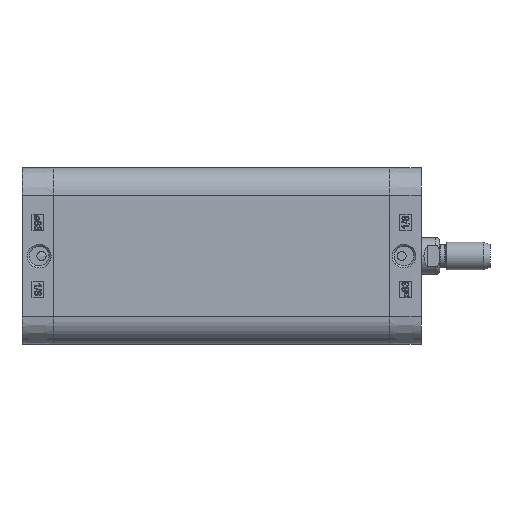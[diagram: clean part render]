
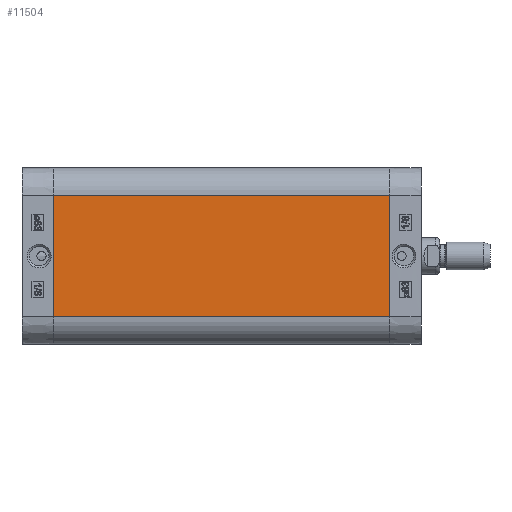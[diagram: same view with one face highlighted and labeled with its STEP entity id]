
A CAD part, left-side view. The second image highlights one B-rep face of the part: STEP entity #11504.
In plain terms, the highlighted planar face has unit normal (-1, 0, 0).
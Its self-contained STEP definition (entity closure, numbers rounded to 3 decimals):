
#5848=CARTESIAN_POINT('',(-38.5,-146.5,26.5));
#5849=VERTEX_POINT('',#5848);
#5856=CARTESIAN_POINT('',(-38.5,-146.5,-26.5));
#5857=VERTEX_POINT('',#5856);
#5858=CARTESIAN_POINT('',(-38.5,-146.5,-26.5));
#5859=DIRECTION('',(0.0,0.0,1.0));
#5860=VECTOR('',#5859,53.0);
#5861=LINE('',#5858,#5860);
#5862=EDGE_CURVE('',#5857,#5849,#5861,.T.);
#11462=CARTESIAN_POINT('',(-38.5,0.0,-26.5));
#11463=VERTEX_POINT('',#11462);
#11464=CARTESIAN_POINT('',(-38.5,0.0,-26.5));
#11465=DIRECTION('',(0.0,-1.0,0.0));
#11466=VECTOR('',#11465,146.5);
#11467=LINE('',#11464,#11466);
#11468=EDGE_CURVE('',#11463,#5857,#11467,.T.);
#11481=CARTESIAN_POINT('',(-38.5,0.0,-26.5));
#11482=DIRECTION('',(-1.0,0.0,0.0));
#11483=DIRECTION('',(0.0,0.0,1.0));
#11484=AXIS2_PLACEMENT_3D('',#11481,#11482,#11483);
#11485=PLANE('',#11484);
#11486=ORIENTED_EDGE('',*,*,#5862,.T.);
#11487=CARTESIAN_POINT('',(-38.5,0.0,26.5));
#11488=VERTEX_POINT('',#11487);
#11489=CARTESIAN_POINT('',(-38.5,0.0,26.5));
#11490=DIRECTION('',(0.0,-1.0,0.0));
#11491=VECTOR('',#11490,146.5);
#11492=LINE('',#11489,#11491);
#11493=EDGE_CURVE('',#11488,#5849,#11492,.T.);
#11494=ORIENTED_EDGE('',*,*,#11493,.F.);
#11495=CARTESIAN_POINT('',(-38.5,0.0,-26.5));
#11496=DIRECTION('',(0.0,0.0,1.0));
#11497=VECTOR('',#11496,53.0);
#11498=LINE('',#11495,#11497);
#11499=EDGE_CURVE('',#11463,#11488,#11498,.T.);
#11500=ORIENTED_EDGE('',*,*,#11499,.F.);
#11501=ORIENTED_EDGE('',*,*,#11468,.T.);
#11502=EDGE_LOOP('',(#11486,#11494,#11500,#11501));
#11503=FACE_OUTER_BOUND('',#11502,.T.);
#11504=ADVANCED_FACE('',(#11503),#11485,.T.);
